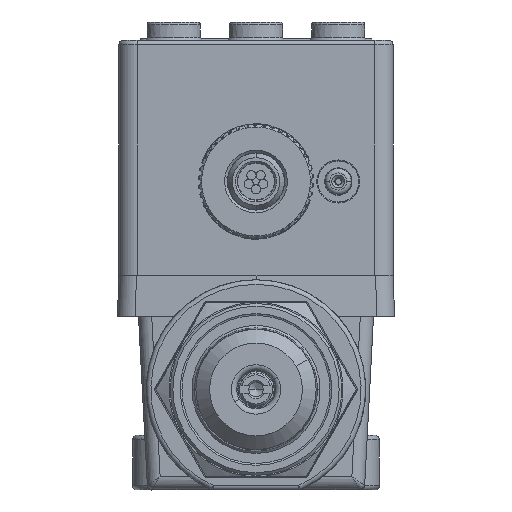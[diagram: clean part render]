
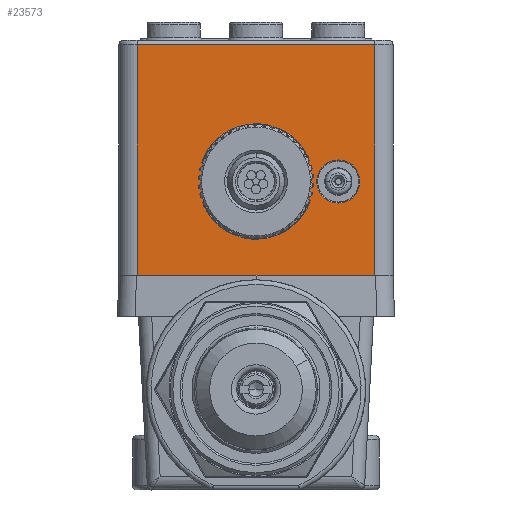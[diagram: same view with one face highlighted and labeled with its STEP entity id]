
A CAD part, front view. The second image highlights one B-rep face of the part: STEP entity #23573.
In plain terms, the highlighted planar face has unit normal (0, -1, 0).
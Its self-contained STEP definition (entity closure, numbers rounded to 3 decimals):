
#1597=DIRECTION('',(1.,0.,0.));
#1598=VECTOR('',#1597,26.);
#1599=CARTESIAN_POINT('',(-13.,-15.,4.5));
#1600=LINE('',#1599,#1598);
#1659=DIRECTION('',(0.,0.,-1.));
#1660=VECTOR('',#1659,25.2);
#1661=CARTESIAN_POINT('',(-13.,-15.,29.7));
#1662=LINE('',#1661,#1660);
#1663=DIRECTION('',(1.,0.,0.));
#1664=VECTOR('',#1663,26.);
#1665=CARTESIAN_POINT('',(-13.,-15.,29.7));
#1666=LINE('',#1665,#1664);
#1667=DIRECTION('',(0.,0.,-1.));
#1668=VECTOR('',#1667,25.2);
#1669=CARTESIAN_POINT('',(13.,-15.,29.7));
#1670=LINE('',#1669,#1668);
#1671=CARTESIAN_POINT('',(0.,-15.,14.75));
#1672=DIRECTION('',(0.,-1.,0.));
#1673=DIRECTION('',(-0.898,0.,-0.44));
#1674=AXIS2_PLACEMENT_3D('',#1671,#1672,#1673);
#1676=DIRECTION('',(-0.017,0.,-1.));
#1677=VECTOR('',#1676,2.35);
#1678=CARTESIAN_POINT('',(5.8,-15.,14.75));
#1679=LINE('',#1678,#1677);
#1680=DIRECTION('',(0.017,0.,-1.));
#1681=VECTOR('',#1680,2.35);
#1682=CARTESIAN_POINT('',(5.759,-15.,17.1));
#1683=LINE('',#1682,#1681);
#1684=CARTESIAN_POINT('',(0.,-15.,14.75));
#1685=DIRECTION('',(0.,-1.,0.));
#1686=DIRECTION('',(0.898,0.,0.44));
#1687=AXIS2_PLACEMENT_3D('',#1684,#1685,#1686);
#1689=DIRECTION('',(0.017,0.,1.));
#1690=VECTOR('',#1689,2.35);
#1691=CARTESIAN_POINT('',(-5.8,-15.,14.75));
#1692=LINE('',#1691,#1690);
#1693=DIRECTION('',(-0.017,0.,1.));
#1694=VECTOR('',#1693,2.35);
#1695=CARTESIAN_POINT('',(-5.759,-15.,12.4));
#1696=LINE('',#1695,#1694);
#1697=CARTESIAN_POINT('',(9.,-15.,14.75));
#1698=DIRECTION('',(0.,1.,0.));
#1699=DIRECTION('',(-1.,0.,0.));
#1700=AXIS2_PLACEMENT_3D('',#1697,#1698,#1699);
#1702=CARTESIAN_POINT('',(9.,-15.,14.75));
#1703=DIRECTION('',(0.,1.,0.));
#1704=DIRECTION('',(1.,0.,0.));
#1705=AXIS2_PLACEMENT_3D('',#1702,#1703,#1704);
#8557=CARTESIAN_POINT('',(-4.759,-15.,17.083));
#8558=DIRECTION('',(0.,1.,0.));
#8559=DIRECTION('',(-1.,0.,0.017));
#8560=AXIS2_PLACEMENT_3D('',#8557,#8558,#8559);
#9998=CARTESIAN_POINT('',(4.759,-15.,12.417));
#9999=DIRECTION('',(0.,1.,0.));
#10000=DIRECTION('',(1.,0.,-0.017));
#10001=AXIS2_PLACEMENT_3D('',#9998,#9999,#10000);
#11393=CARTESIAN_POINT('',(4.759,-15.,17.083));
#11394=DIRECTION('',(0.,1.,0.));
#11395=DIRECTION('',(0.898,0.,0.44));
#11396=AXIS2_PLACEMENT_3D('',#11393,#11394,#11395);
#15194=CARTESIAN_POINT('',(-4.759,-15.,12.417));
#15195=DIRECTION('',(0.,1.,0.));
#15196=DIRECTION('',(-0.898,0.,-0.44));
#15197=AXIS2_PLACEMENT_3D('',#15194,#15195,#15196);
#19377=CARTESIAN_POINT('',(-13.,-15.,29.7));
#19378=VERTEX_POINT('',#19377);
#19381=CARTESIAN_POINT('',(13.,-15.,29.7));
#19382=VERTEX_POINT('',#19381);
#19459=CARTESIAN_POINT('',(6.643,-15.,14.75));
#19460=CARTESIAN_POINT('',(11.357,-15.,14.75));
#19461=VERTEX_POINT('',#19459);
#19462=VERTEX_POINT('',#19460);
#19636=CARTESIAN_POINT('',(5.759,-15.,17.1));
#19637=CARTESIAN_POINT('',(5.8,-15.,14.75));
#19638=VERTEX_POINT('',#19636);
#19639=VERTEX_POINT('',#19637);
#19640=CARTESIAN_POINT('',(5.759,-15.,12.4));
#19641=VERTEX_POINT('',#19640);
#19642=CARTESIAN_POINT('',(5.657,-15.,17.523));
#19643=VERTEX_POINT('',#19642);
#19644=CARTESIAN_POINT('',(5.657,-15.,11.977));
#19645=VERTEX_POINT('',#19644);
#19655=CARTESIAN_POINT('',(-5.657,-15.,17.523));
#19656=VERTEX_POINT('',#19655);
#19657=CARTESIAN_POINT('',(-5.657,-15.,11.977));
#19658=VERTEX_POINT('',#19657);
#19670=CARTESIAN_POINT('',(-5.759,-15.,12.4));
#19671=CARTESIAN_POINT('',(-5.8,-15.,14.75));
#19672=VERTEX_POINT('',#19670);
#19673=VERTEX_POINT('',#19671);
#19674=CARTESIAN_POINT('',(-5.759,-15.,17.1));
#19675=VERTEX_POINT('',#19674);
#19793=CARTESIAN_POINT('',(-13.,-15.,4.5));
#19794=CARTESIAN_POINT('',(13.,-15.,4.5));
#19795=VERTEX_POINT('',#19793);
#19796=VERTEX_POINT('',#19794);
#23532=CARTESIAN_POINT('',(-15.,-15.,2.9));
#23533=DIRECTION('',(0.,-1.,0.));
#23534=DIRECTION('',(1.,0.,0.));
#23535=AXIS2_PLACEMENT_3D('',#23532,#23533,#23534);
#23536=PLANE('',#23535);
#23538=ORIENTED_EDGE('',*,*,#23537,.F.);
#23540=ORIENTED_EDGE('',*,*,#23539,.T.);
#23541=ORIENTED_EDGE('',*,*,#23505,.T.);
#23542=ORIENTED_EDGE('',*,*,#23518,.F.);
#23543=EDGE_LOOP('',(#23538,#23540,#23541,#23542));
#23544=FACE_OUTER_BOUND('',#23543,.F.);
#23546=ORIENTED_EDGE('',*,*,#23545,.T.);
#23548=ORIENTED_EDGE('',*,*,#23547,.F.);
#23550=ORIENTED_EDGE('',*,*,#23549,.F.);
#23552=ORIENTED_EDGE('',*,*,#23551,.F.);
#23554=ORIENTED_EDGE('',*,*,#23553,.F.);
#23556=ORIENTED_EDGE('',*,*,#23555,.T.);
#23558=ORIENTED_EDGE('',*,*,#23557,.F.);
#23560=ORIENTED_EDGE('',*,*,#23559,.F.);
#23562=ORIENTED_EDGE('',*,*,#23561,.F.);
#23564=ORIENTED_EDGE('',*,*,#23563,.F.);
#23565=EDGE_LOOP('',(#23546,#23548,#23550,#23552,#23554,#23556,#23558,#23560,
#23562,#23564));
#23566=FACE_BOUND('',#23565,.F.);
#23568=ORIENTED_EDGE('',*,*,#23567,.F.);
#23570=ORIENTED_EDGE('',*,*,#23569,.F.);
#23571=EDGE_LOOP('',(#23568,#23570));
#23572=FACE_BOUND('',#23571,.F.);
#23573=ADVANCED_FACE('',(#23544,#23566,#23572),#23536,.T.);
#1675=CIRCLE('',#1674,6.3);
#1688=CIRCLE('',#1687,6.3);
#1701=CIRCLE('',#1700,2.357);
#1706=CIRCLE('',#1705,2.357);
#8561=CIRCLE('',#8560,1.);
#10002=CIRCLE('',#10001,1.);
#11397=CIRCLE('',#11396,1.);
#15198=CIRCLE('',#15197,1.);
#23505=EDGE_CURVE('',#19382,#19796,#1670,.T.);
#23518=EDGE_CURVE('',#19795,#19796,#1600,.T.);
#23537=EDGE_CURVE('',#19378,#19795,#1662,.T.);
#23539=EDGE_CURVE('',#19378,#19382,#1666,.T.);
#23545=EDGE_CURVE('',#19658,#19645,#1675,.T.);
#23547=EDGE_CURVE('',#19641,#19645,#10002,.T.);
#23549=EDGE_CURVE('',#19639,#19641,#1679,.T.);
#23551=EDGE_CURVE('',#19638,#19639,#1683,.T.);
#23553=EDGE_CURVE('',#19643,#19638,#11397,.T.);
#23555=EDGE_CURVE('',#19643,#19656,#1688,.T.);
#23557=EDGE_CURVE('',#19675,#19656,#8561,.T.);
#23559=EDGE_CURVE('',#19673,#19675,#1692,.T.);
#23561=EDGE_CURVE('',#19672,#19673,#1696,.T.);
#23563=EDGE_CURVE('',#19658,#19672,#15198,.T.);
#23567=EDGE_CURVE('',#19461,#19462,#1701,.T.);
#23569=EDGE_CURVE('',#19462,#19461,#1706,.T.);
